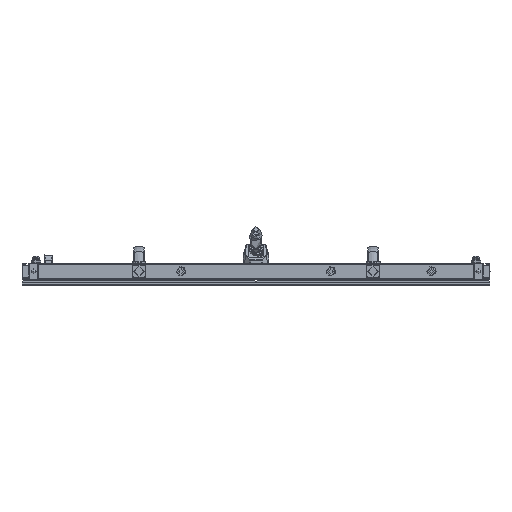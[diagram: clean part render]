
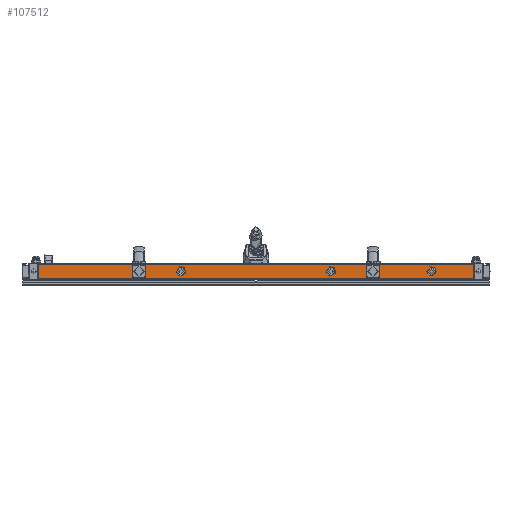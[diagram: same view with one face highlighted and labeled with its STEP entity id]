
A CAD part, front view. The second image highlights one B-rep face of the part: STEP entity #107512.
In plain terms, the highlighted planar face has unit normal (0, -1, 0).
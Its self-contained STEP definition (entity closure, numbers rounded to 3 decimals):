
#4813=FACE_BOUND('',#18095,.T.);
#4814=FACE_BOUND('',#18096,.T.);
#4815=FACE_BOUND('',#18097,.T.);
#4816=FACE_BOUND('',#18098,.T.);
#4817=FACE_BOUND('',#18099,.T.);
#11241=FACE_OUTER_BOUND('',#18094,.T.);
#18094=EDGE_LOOP('',(#90851,#90852,#90853,#90854));
#18095=EDGE_LOOP('',(#90855,#90856,#90857,#90858,#90859,#90860,#90861,#90862));
#18096=EDGE_LOOP('',(#90863,#90864,#90865,#90866,#90867,#90868,#90869,#90870));
#18097=EDGE_LOOP('',(#90871));
#18098=EDGE_LOOP('',(#90872));
#18099=EDGE_LOOP('',(#90873));
#23722=CIRCLE('',#117548,2.25);
#23723=CIRCLE('',#117549,2.25);
#23724=CIRCLE('',#117550,2.25);
#23725=CIRCLE('',#117551,2.25);
#23726=CIRCLE('',#117552,2.25);
#23727=CIRCLE('',#117553,2.25);
#23728=CIRCLE('',#117554,2.25);
#23729=CIRCLE('',#117555,2.25);
#23730=CIRCLE('',#117556,10.);
#23731=CIRCLE('',#117557,10.);
#23732=CIRCLE('',#117558,10.);
#30975=LINE('',#213628,#39687);
#30982=LINE('',#213645,#39694);
#30988=LINE('',#213668,#39700);
#30989=LINE('',#213670,#39701);
#30990=LINE('',#213673,#39702);
#30991=LINE('',#213677,#39703);
#30992=LINE('',#213681,#39704);
#30993=LINE('',#213685,#39705);
#30994=LINE('',#213689,#39706);
#30995=LINE('',#213693,#39707);
#30996=LINE('',#213697,#39708);
#30997=LINE('',#213701,#39709);
#39687=VECTOR('',#142595,29.);
#39694=VECTOR('',#142610,29.);
#39700=VECTOR('',#142640,930.);
#39701=VECTOR('',#142643,930.);
#39702=VECTOR('',#142644,22.5);
#39703=VECTOR('',#142647,22.5);
#39704=VECTOR('',#142650,22.5);
#39705=VECTOR('',#142653,22.5);
#39706=VECTOR('',#142656,22.5);
#39707=VECTOR('',#142659,22.5);
#39708=VECTOR('',#142662,22.5);
#39709=VECTOR('',#142665,22.5);
#49470=VERTEX_POINT('',#213625);
#49471=VERTEX_POINT('',#213627);
#49476=VERTEX_POINT('',#213642);
#49477=VERTEX_POINT('',#213644);
#49483=VERTEX_POINT('',#213671);
#49484=VERTEX_POINT('',#213672);
#49485=VERTEX_POINT('',#213674);
#49486=VERTEX_POINT('',#213676);
#49487=VERTEX_POINT('',#213678);
#49488=VERTEX_POINT('',#213680);
#49489=VERTEX_POINT('',#213682);
#49490=VERTEX_POINT('',#213684);
#49491=VERTEX_POINT('',#213687);
#49492=VERTEX_POINT('',#213688);
#49493=VERTEX_POINT('',#213690);
#49494=VERTEX_POINT('',#213692);
#49495=VERTEX_POINT('',#213694);
#49496=VERTEX_POINT('',#213696);
#49497=VERTEX_POINT('',#213698);
#49498=VERTEX_POINT('',#213700);
#49499=VERTEX_POINT('',#213703);
#49500=VERTEX_POINT('',#213705);
#49501=VERTEX_POINT('',#213707);
#63696=EDGE_CURVE('',#49470,#49471,#30975,.T.);
#63705=EDGE_CURVE('',#49477,#49476,#30982,.T.);
#63716=EDGE_CURVE('',#49470,#49477,#30988,.T.);
#63717=EDGE_CURVE('',#49476,#49471,#30989,.T.);
#63718=EDGE_CURVE('',#49483,#49484,#30990,.T.);
#63719=EDGE_CURVE('',#49483,#49485,#23722,.T.);
#63720=EDGE_CURVE('',#49486,#49485,#30991,.T.);
#63721=EDGE_CURVE('',#49486,#49487,#23723,.T.);
#63722=EDGE_CURVE('',#49488,#49487,#30992,.T.);
#63723=EDGE_CURVE('',#49488,#49489,#23724,.T.);
#63724=EDGE_CURVE('',#49490,#49489,#30993,.T.);
#63725=EDGE_CURVE('',#49490,#49484,#23725,.T.);
#63726=EDGE_CURVE('',#49491,#49492,#30994,.T.);
#63727=EDGE_CURVE('',#49491,#49493,#23726,.T.);
#63728=EDGE_CURVE('',#49494,#49493,#30995,.T.);
#63729=EDGE_CURVE('',#49494,#49495,#23727,.T.);
#63730=EDGE_CURVE('',#49496,#49495,#30996,.T.);
#63731=EDGE_CURVE('',#49496,#49497,#23728,.T.);
#63732=EDGE_CURVE('',#49498,#49497,#30997,.T.);
#63733=EDGE_CURVE('',#49498,#49492,#23729,.T.);
#63734=EDGE_CURVE('',#49499,#49499,#23730,.T.);
#63735=EDGE_CURVE('',#49500,#49500,#23731,.T.);
#63736=EDGE_CURVE('',#49501,#49501,#23732,.T.);
#90851=ORIENTED_EDGE('',*,*,#63717,.T.);
#90852=ORIENTED_EDGE('',*,*,#63696,.F.);
#90853=ORIENTED_EDGE('',*,*,#63716,.T.);
#90854=ORIENTED_EDGE('',*,*,#63705,.T.);
#90855=ORIENTED_EDGE('',*,*,#63718,.F.);
#90856=ORIENTED_EDGE('',*,*,#63719,.T.);
#90857=ORIENTED_EDGE('',*,*,#63720,.F.);
#90858=ORIENTED_EDGE('',*,*,#63721,.T.);
#90859=ORIENTED_EDGE('',*,*,#63722,.F.);
#90860=ORIENTED_EDGE('',*,*,#63723,.T.);
#90861=ORIENTED_EDGE('',*,*,#63724,.F.);
#90862=ORIENTED_EDGE('',*,*,#63725,.T.);
#90863=ORIENTED_EDGE('',*,*,#63726,.F.);
#90864=ORIENTED_EDGE('',*,*,#63727,.T.);
#90865=ORIENTED_EDGE('',*,*,#63728,.F.);
#90866=ORIENTED_EDGE('',*,*,#63729,.T.);
#90867=ORIENTED_EDGE('',*,*,#63730,.F.);
#90868=ORIENTED_EDGE('',*,*,#63731,.T.);
#90869=ORIENTED_EDGE('',*,*,#63732,.F.);
#90870=ORIENTED_EDGE('',*,*,#63733,.T.);
#90871=ORIENTED_EDGE('',*,*,#63734,.F.);
#90872=ORIENTED_EDGE('',*,*,#63735,.F.);
#90873=ORIENTED_EDGE('',*,*,#63736,.F.);
#102331=PLANE('',#117547);
#107512=ADVANCED_FACE('',(#11241,#4813,#4814,#4815,#4816,#4817),#102331,
 .F.);
#117547=AXIS2_PLACEMENT_3D('',#213669,#142641,#142642);
#117548=AXIS2_PLACEMENT_3D('',#213675,#142645,#142646);
#117549=AXIS2_PLACEMENT_3D('',#213679,#142648,#142649);
#117550=AXIS2_PLACEMENT_3D('',#213683,#142651,#142652);
#117551=AXIS2_PLACEMENT_3D('',#213686,#142654,#142655);
#117552=AXIS2_PLACEMENT_3D('',#213691,#142657,#142658);
#117553=AXIS2_PLACEMENT_3D('',#213695,#142660,#142661);
#117554=AXIS2_PLACEMENT_3D('',#213699,#142663,#142664);
#117555=AXIS2_PLACEMENT_3D('',#213702,#142666,#142667);
#117556=AXIS2_PLACEMENT_3D('',#213704,#142668,#142669);
#117557=AXIS2_PLACEMENT_3D('',#213706,#142670,#142671);
#117558=AXIS2_PLACEMENT_3D('',#213708,#142672,#142673);
#142595=DIRECTION('',(0.,0.,1.));
#142610=DIRECTION('',(0.,0.,1.));
#142640=DIRECTION('',(1.,0.,0.));
#142641=DIRECTION('center_axis',(0.,1.,0.));
#142642=DIRECTION('ref_axis',(0.,0.,-1.));
#142643=DIRECTION('',(-1.,0.,0.));
#142644=DIRECTION('',(1.,0.,0.));
#142645=DIRECTION('center_axis',(0.,1.,0.));
#142646=DIRECTION('ref_axis',(0.,0.,-1.));
#142647=DIRECTION('',(0.,0.,-1.));
#142648=DIRECTION('center_axis',(0.,1.,0.));
#142649=DIRECTION('ref_axis',(-1.,0.,0.));
#142650=DIRECTION('',(-1.,0.,0.));
#142651=DIRECTION('center_axis',(0.,1.,0.));
#142652=DIRECTION('ref_axis',(0.,0.,1.));
#142653=DIRECTION('',(0.,0.,1.));
#142654=DIRECTION('center_axis',(0.,1.,0.));
#142655=DIRECTION('ref_axis',(1.,0.,0.));
#142656=DIRECTION('',(1.,0.,0.));
#142657=DIRECTION('center_axis',(0.,1.,0.));
#142658=DIRECTION('ref_axis',(0.,0.,-1.));
#142659=DIRECTION('',(0.,0.,-1.));
#142660=DIRECTION('center_axis',(0.,1.,0.));
#142661=DIRECTION('ref_axis',(-1.,0.,0.));
#142662=DIRECTION('',(-1.,0.,0.));
#142663=DIRECTION('center_axis',(0.,1.,0.));
#142664=DIRECTION('ref_axis',(0.,0.,1.));
#142665=DIRECTION('',(0.,0.,1.));
#142666=DIRECTION('center_axis',(0.,1.,0.));
#142667=DIRECTION('ref_axis',(1.,0.,0.));
#142668=DIRECTION('center_axis',(0.,-1.,0.));
#142669=DIRECTION('ref_axis',(1.,0.,0.));
#142670=DIRECTION('center_axis',(0.,-1.,0.));
#142671=DIRECTION('ref_axis',(1.,0.,0.));
#142672=DIRECTION('center_axis',(0.,-1.,0.));
#142673=DIRECTION('ref_axis',(1.,0.,0.));
#213625=CARTESIAN_POINT('',(-465.,-499.,-14.5));
#213627=CARTESIAN_POINT('',(-465.,-499.,14.5));
#213628=CARTESIAN_POINT('',(-465.,-499.,-14.5));
#213642=CARTESIAN_POINT('',(465.,-499.,14.5));
#213644=CARTESIAN_POINT('',(465.,-499.,-14.5));
#213645=CARTESIAN_POINT('',(465.,-499.,-14.5));
#213668=CARTESIAN_POINT('',(-465.,-499.,-14.5));
#213669=CARTESIAN_POINT('Origin',(464.8,-499.,17.5));
#213670=CARTESIAN_POINT('',(465.,-499.,14.5));
#213671=CARTESIAN_POINT('',(238.75,-499.,-13.5));
#213672=CARTESIAN_POINT('',(261.25,-499.,-13.5));
#213673=CARTESIAN_POINT('',(238.75,-499.,-13.5));
#213674=CARTESIAN_POINT('',(236.5,-499.,-11.25));
#213675=CARTESIAN_POINT('Origin',(238.75,-499.,-11.25));
#213676=CARTESIAN_POINT('',(236.5,-499.,11.25));
#213677=CARTESIAN_POINT('',(236.5,-499.,11.25));
#213678=CARTESIAN_POINT('',(238.75,-499.,13.5));
#213679=CARTESIAN_POINT('Origin',(238.75,-499.,11.25));
#213680=CARTESIAN_POINT('',(261.25,-499.,13.5));
#213681=CARTESIAN_POINT('',(261.25,-499.,13.5));
#213682=CARTESIAN_POINT('',(263.5,-499.,11.25));
#213683=CARTESIAN_POINT('Origin',(261.25,-499.,11.25));
#213684=CARTESIAN_POINT('',(263.5,-499.,-11.25));
#213685=CARTESIAN_POINT('',(263.5,-499.,-11.25));
#213686=CARTESIAN_POINT('Origin',(261.25,-499.,-11.25));
#213687=CARTESIAN_POINT('',(-261.25,-499.,-13.5));
#213688=CARTESIAN_POINT('',(-238.75,-499.,-13.5));
#213689=CARTESIAN_POINT('',(-261.25,-499.,-13.5));
#213690=CARTESIAN_POINT('',(-263.5,-499.,-11.25));
#213691=CARTESIAN_POINT('Origin',(-261.25,-499.,-11.25));
#213692=CARTESIAN_POINT('',(-263.5,-499.,11.25));
#213693=CARTESIAN_POINT('',(-263.5,-499.,11.25));
#213694=CARTESIAN_POINT('',(-261.25,-499.,13.5));
#213695=CARTESIAN_POINT('Origin',(-261.25,-499.,11.25));
#213696=CARTESIAN_POINT('',(-238.75,-499.,13.5));
#213697=CARTESIAN_POINT('',(-238.75,-499.,13.5));
#213698=CARTESIAN_POINT('',(-236.5,-499.,11.25));
#213699=CARTESIAN_POINT('Origin',(-238.75,-499.,11.25));
#213700=CARTESIAN_POINT('',(-236.5,-499.,-11.25));
#213701=CARTESIAN_POINT('',(-236.5,-499.,-11.25));
#213702=CARTESIAN_POINT('Origin',(-238.75,-499.,-11.25));
#213703=CARTESIAN_POINT('',(365.,-499.,0.));
#213704=CARTESIAN_POINT('Origin',(375.,-499.,0.));
#213705=CARTESIAN_POINT('',(-170.,-499.,0.));
#213706=CARTESIAN_POINT('Origin',(-160.,-499.,0.));
#213707=CARTESIAN_POINT('',(150.,-499.,0.));
#213708=CARTESIAN_POINT('Origin',(160.,-499.,0.));
